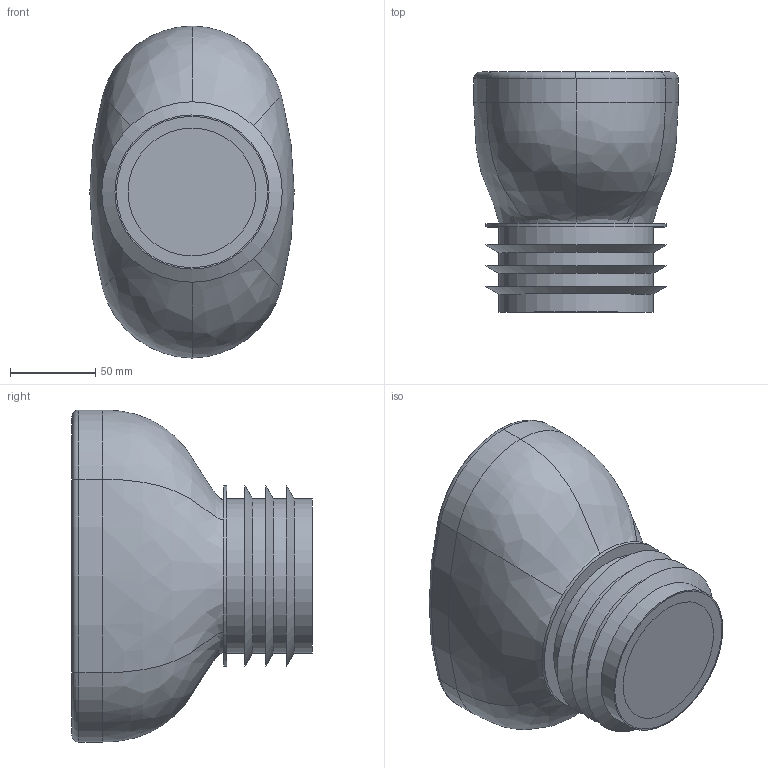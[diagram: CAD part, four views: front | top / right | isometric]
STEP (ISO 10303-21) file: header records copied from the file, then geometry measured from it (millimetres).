
FILE_DESCRIPTION(/* description */ (''),/* implementation_level */ '2;1');
FILE_NAME(/* name */ 'Z:\Geberit\Export\NewStep\I_GRB90_Belüftungsventil\stp\307006.stp',/* time_stamp */ '2014-04-03T18:08:45+02:00',/* author */ ('Bründl'),/* organization */ (''),/* preprocessor_version */ 'ST-DEVELOPER v15.2',/* originating_system */ 'Autodesk Inventor 2014',/* authorisation */ '');
FILE_SCHEMA (('AUTOMOTIVE_DESIGN { 1 0 10303 214 3 1 1 }'));
Length unit declared in the file: millimetre
Products named in the file (3): I_GRB90_Belüftungsventil; 307006
Bounding box: 120 x 141 x 194.98 mm (x, y, z)
Volume: 1848835.9 mm3; surface area: 170269.3 mm2
Topology: 3 solids, 3 shells, 38 faces, 77 edges, 49 vertices
Faces by surface type: cylinder 13, plane 10, torus 6, bspline 6, cone 3
Full cylindrical faces by diameter (mm): 75 x1, 88.9 x1, 90.5 x4, 106 x1
Entity records: 1214 total; most frequent: CARTESIAN_POINT 377, DIRECTION 182, ORIENTED_EDGE 130, AXIS2_PLACEMENT_3D 88, EDGE_CURVE 65, EDGE_LOOP 54, CIRCLE 51, VERTEX_POINT 47
